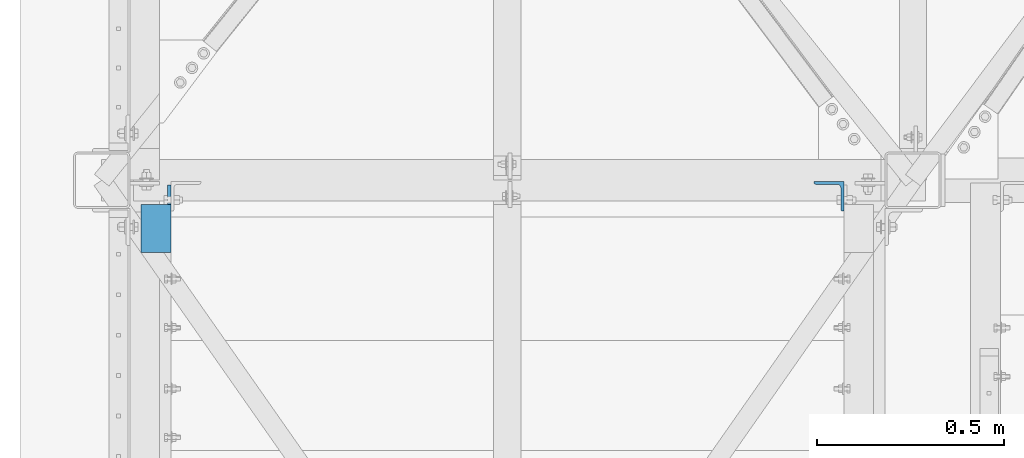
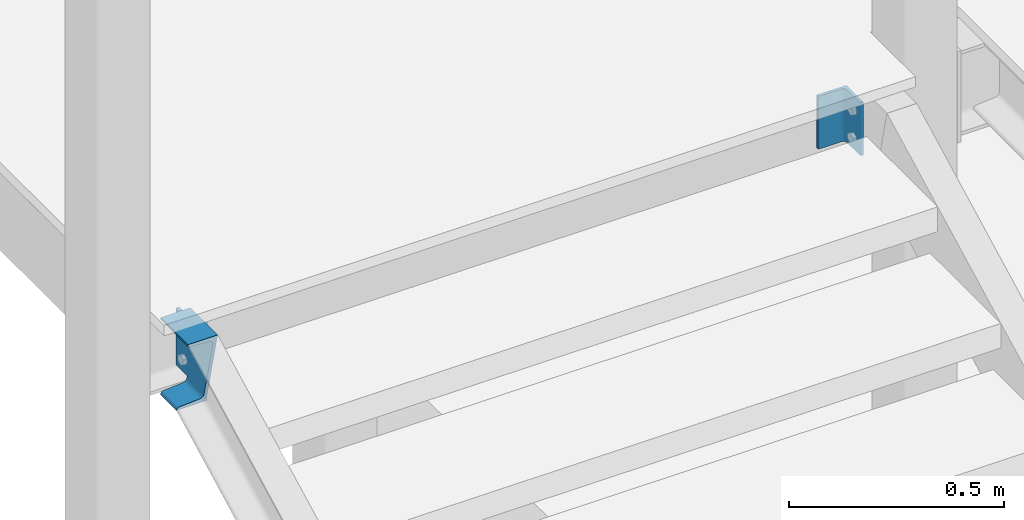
# One storey, part 44 of 78: 2 beams, 2 elements without a shape of their own.
"""IFC2X3 building model written with IfcOpenShell, lengths in millimetres."""

from ifc_helpers import new_model, si_unit, frame, origin_with_axes, origin_2d_with_axis, place, context, subcontext, project, spatial, polyline, l_section, u_section, outline, extrude, boolean, halfspace, material, type_object, element, aggregate, save


model = new_model("IFC2X3")

# Units and contexts
model_context = context("Model", 3, precision=1e-05, world=origin_with_axes())
body_context = subcontext(model_context, "Body", "Model", "MODEL_VIEW")
ifc_project = project(units=[si_unit("LENGTHUNIT", "METRE", prefix="MILLI"), si_unit("AREAUNIT", "SQUARE_METRE"), si_unit("VOLUMEUNIT", "CUBIC_METRE"), si_unit("MASSUNIT", "GRAM", prefix="KILO"), si_unit("TIMEUNIT", "SECOND"), si_unit("PLANEANGLEUNIT", "RADIAN"), si_unit("SOLIDANGLEUNIT", "STERADIAN"), si_unit("THERMODYNAMICTEMPERATUREUNIT", "DEGREE_CELSIUS"), si_unit("LUMINOUSINTENSITYUNIT", "LUMEN")], contexts=[model_context])

# Site, building, storey
site_placement = place(None, origin_with_axes())
site = spatial("IfcSite", under=ifc_project, at=site_placement, Name="Site", CompositionType="ELEMENT")
building_placement = place(site_placement, origin_with_axes())
building = spatial("IfcBuilding", under=site, at=building_placement, Name="Undefined", CompositionType="ELEMENT")
storey_placement = place(building_placement, origin_with_axes())
storey = spatial("IfcBuildingStorey", under=building, at=storey_placement, Name="Undefined", CompositionType="ELEMENT", Elevation=0.0)

# Assembly, beam
assembly_1_placement = place(storey_placement, origin_with_axes())
assembly_1 = element("IfcElementAssembly", 1, at=assembly_1_placement, inside=storey, AssemblyPlace="NOTDEFINED", PredefinedType="RIGID_FRAME")
ifc_material_1 = material(Name="STEEL/S275JR")
beam_type_1 = type_object("IfcBeamType", Name="UPN220", PredefinedType="NOTDEFINED")
beam_1_placement = place(assembly_1_placement, frame((-35241.4300000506, 10072.9999999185, 150760.039999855), z_axis=(0.0, 0.0, 1.0), x_axis=(0.0, -1.0, 0.0)))
beam_1 = element("IfcBeam", 2, at=beam_1_placement, type_object=beam_type_1, material=ifc_material_1, Name="LIMON", ObjectType="UPN220", context=body_context, shape_type="CSG", body=[
    boolean("DIFFERENCE", boolean("DIFFERENCE", boolean("DIFFERENCE", boolean("DIFFERENCE", extrude(u_section(Depth=220.0, FlangeWidth=80.0, WebThickness=9.0, FlangeThickness=12.5, FilletRadius=12.5, EdgeRadius=6.5, FlangeSlope=0.0798299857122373, at=origin_2d_with_axis()), frame((157.916154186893, 0.0, 0.0), z_axis=(-1.0, 0.0, 0.0), x_axis=(0.0, -1.0, 0.0)), (0.0, 0.0, 1.0), 207.14), extrude(outline(polyline([(0.0, 0.0), (62.0499999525, 0.0), (62.0499999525, 39.1999996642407), (0.0, 39.1999996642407), (0.0, 0.0)])), frame((-32.0500000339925, 50.0, 80.8000003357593), z_axis=(0.0, -1.0, 0.0), x_axis=(1.0, 0.0, 0.0)), (0.0, 0.0, 1.0), 100.0)), extrude(outline(polyline([(0.0, 0.0), (62.0499999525, 0.0), (62.0499999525, 39.1999996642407), (0.0, 39.1999996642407), (0.0, 0.0)])), frame((-32.0500000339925, -50.0, -80.8000000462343), z_axis=(0.0, 1.0, 0.0), x_axis=(1.0, 0.0, 0.0)), (0.0, 0.0, 1.0), 100.0)), halfspace(frame((157.647058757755, -39.999999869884, 109.999999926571), z_axis=(-0.971356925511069, 0.0, 0.237625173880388), x_axis=(0.0, -1.0, 0.0)), True)), halfspace(frame((-22.0500000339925, 0.0, 210.0), z_axis=(-1.0, 0.0, 0.0), x_axis=(0.0, -1.0, 0.0)), False)),
])
aggregate(assembly_1, [beam_1])

assembly_2_placement = place(storey_placement, origin_with_axes())
assembly_2 = element("IfcElementAssembly", 3, at=assembly_2_placement, inside=storey, AssemblyPlace="NOTDEFINED", PredefinedType="RIGID_FRAME")
ifc_material_2 = material(Name="STEEL/S235JR")
beam_type_2 = type_object("IfcBeamType", Name="L80*8", PredefinedType="NOTDEFINED")
beam_2_placement = place(assembly_2_placement, frame((-33441.429999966, 10065.0499999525, 150835.039999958), z_axis=(0.0, -1.0, 0.0), x_axis=(0.0, 0.0, -1.0)))
beam_2 = element("IfcBeam", 4, at=beam_2_placement, type_object=beam_type_2, material=ifc_material_2, Name="CORNIERE", ObjectType="L80*8", context=body_context, shape_type="SweptSolid", body=[
    extrude(l_section(Depth=80.0, Width=80.0, Thickness=8.0, FilletRadius=10.0, EdgeRadius=5.0, at=origin_2d_with_axis()), frame((150.0, 0.0, 0.0), z_axis=(-1.0, 0.0, 0.0), x_axis=(0.0, -1.0, 0.0)), (0.0, 0.0, 1.0), 150.0),
])
aggregate(assembly_2, [beam_2])

save(model, "model.ifc")
